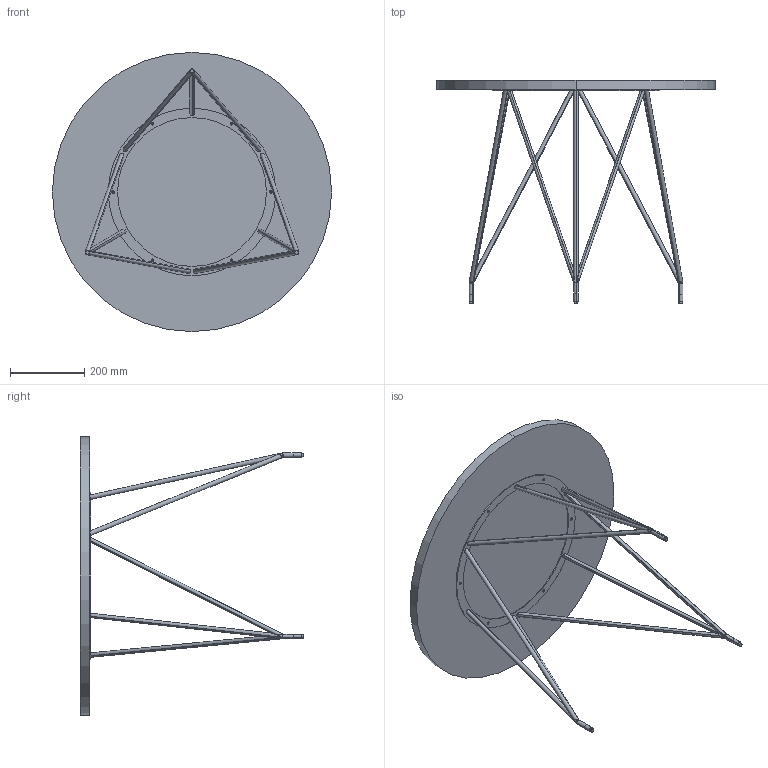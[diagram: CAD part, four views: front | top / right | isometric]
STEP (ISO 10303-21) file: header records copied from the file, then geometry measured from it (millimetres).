
FILE_DESCRIPTION (( 'STEP AP203' ), '1' );
FILE_NAME ('Veshti Dia750 x H600.STEP', '2024-04-05T07:50:51', ( '' ), ( '' ), 'SwSTEP 2.0', 'SolidWorks 2023', '' );
FILE_SCHEMA (( 'CONFIG_CONTROL_DESIGN' ));
Length unit declared in the file: millimetre
Products named in the file (5): M6x20MM Buffer; Veshti Frame_750_Default<As Machined>; Veshti_Tp_750; Screw_16_По умолчанию; Veshti Dia750 x H600
Assembly tree (11 placements, depth 2):
  Veshti Dia750 x H600
    Veshti Frame_750_Default<As Machined>
    Veshti_Tp_750
    M6x20MM Buffer  x3
    Screw_16_По умолчанию  x6
Bounding box: 750 x 600 x 750 mm (x, y, z)
Volume: 11387482.8 mm3; surface area: 1363181.3 mm2
Topology: 29 solids, 29 shells, 517 faces, 1266 edges, 780 vertices
Faces by surface type: plane 175, cylinder 156, bspline 96, cone 90
Entity records: 8159 total; most frequent: CARTESIAN_POINT 3783, ORIENTED_EDGE 822, DIRECTION 670, EDGE_CURVE 411, VERTEX_POINT 269, AXIS2_PLACEMENT_3D 263, EDGE_LOOP 218, FACE_OUTER_BOUND 178
